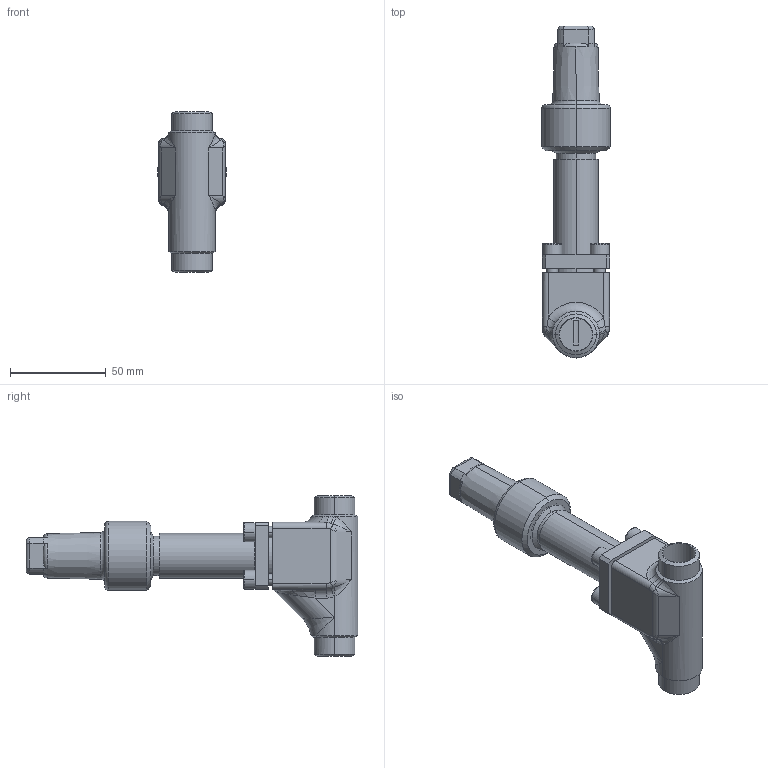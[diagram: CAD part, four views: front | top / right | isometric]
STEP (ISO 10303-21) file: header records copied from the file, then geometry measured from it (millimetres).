
FILE_DESCRIPTION (( 'STEP AP214' ), '1' );
FILE_NAME ('HRAR92310-DN015_R1_PS40.STEP', '2006-05-02T07:22:37', ( 'Herr Grams' ), ( 'AWP GmbH' ), 'SwSTEP 2.0', 'SolidWorks 2002296', '' );
FILE_SCHEMA (( 'AUTOMOTIVE_DESIGN' ));
Length unit declared in the file: millimetre
Products named in the file (6): HRAR92310-DN015_R1_PS40; Gehäuse96300E10-DN15_PS40_R1_Standard; AVR96310E10_Deck+Schr-DN6-15_Standard; Deckel96310E10-DN6-15_PS40_Standard; Zylinderschraube-DIN912_M 6x 18; Kappe96300E10_DN6-20_Standard
Assembly tree (8 placements, depth 3):
  HRAR92310-DN015_R1_PS40
    Gehäuse96300E10-DN15_PS40_R1_Standard
    Kappe96300E10_DN6-20_Standard
    AVR96310E10_Deck+Schr-DN6-15_Standard
      Zylinderschraube-DIN912_M 6x 18  x4
      Deckel96310E10-DN6-15_PS40_Standard
Bounding box: 36 x 173.2 x 84 mm (x, y, z)
Volume: 115249.9 mm3; surface area: 39978.9 mm2
Topology: 7 solids, 7 shells, 259 faces, 599 edges, 365 vertices
Faces by surface type: cylinder 91, plane 88, bspline 29, cone 27, torus 24
Entity records: 18082 total; most frequent: CARTESIAN_POINT 12897, ORIENTED_EDGE 954, DIRECTION 940, EDGE_CURVE 477, AXIS2_PLACEMENT_3D 391, VERTEX_POINT 293, EDGE_LOOP 230, ADVANCED_FACE 205
